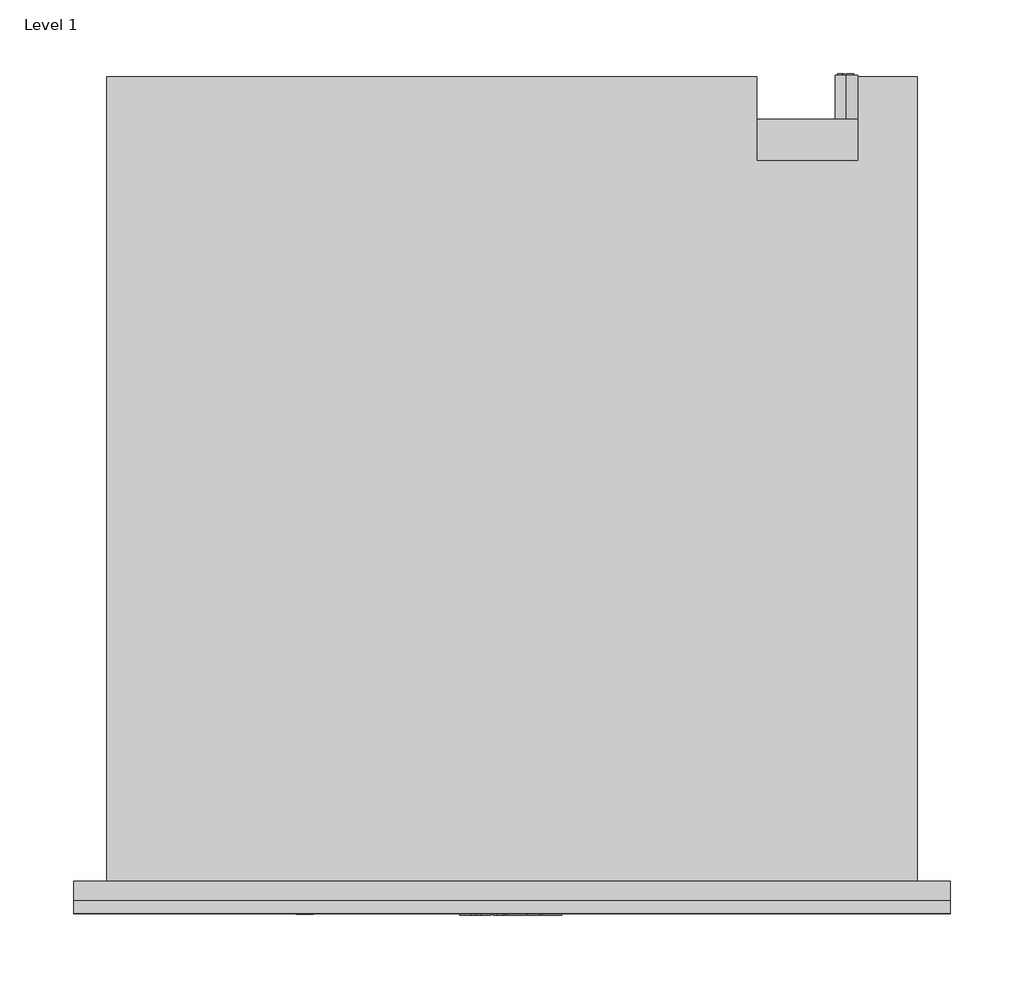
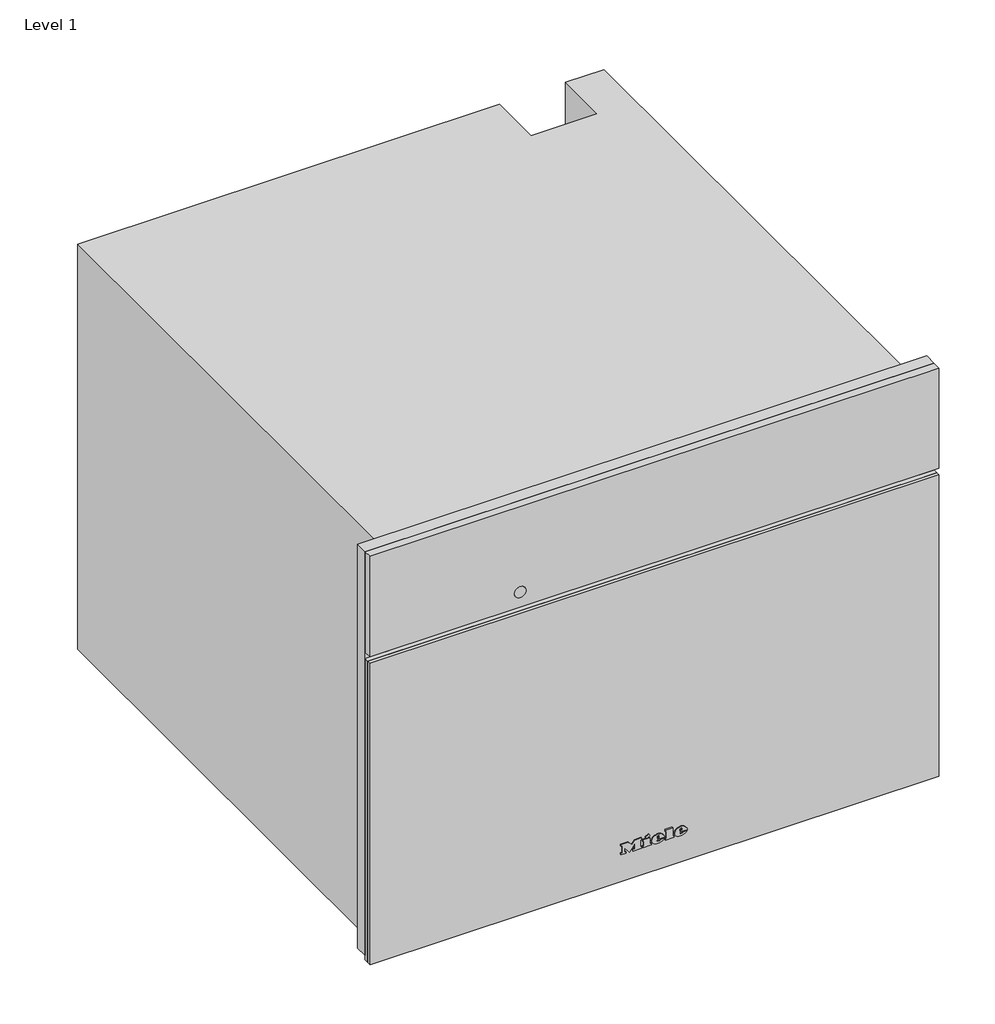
# One storey: 1 proxy.
"""IFC4 building model written with IfcOpenShell, lengths in millimetres."""

import ifcopenshell
import ifcopenshell.guid

model = None  # the IFC model being written
_history = None  # IfcOwnerHistory: only IFC2X3 demands one
_inside = {}  # id of a spatial element -> (the spatial element, [elements in it])
_under = {}  # id of a project, library or spatial element -> (it, [spatial elements below it])
_declared = {}  # id of a project -> (the project, [libraries it declares])
_typed = {}  # id of a type object -> (the type object, [elements of that type])
_made_of = {}  # id of a material, layer set ... -> (it, [elements and type objects made of it])


def new_model(schema):
    """Start an empty IFC model of exactly this schema.

    Asked for "IFC4X3", IfcOpenShell would pick the latest addendum, in which some entities
    have other attributes; the version numbers below select the first issue.
    IFC2X3 requires an IfcOwnerHistory on every rooted entity: one is made here for all.
    """
    global model, _history
    if schema == "IFC4X3":
        model = ifcopenshell.file(schema_version=(4, 3, 0, 0))
    else:
        model = ifcopenshell.file(schema=schema)
    _inside.clear()
    _under.clear()
    _declared.clear()
    _typed.clear()
    _made_of.clear()
    _history = None
    if model.schema == "IFC2X3":
        org = make("IfcOrganization", Name="unknown")
        user = make(
            "IfcPersonAndOrganization",
            ThePerson=make("IfcPerson", FamilyName="unknown"),
            TheOrganization=org,
        )
        app = make(
            "IfcApplication",
            ApplicationDeveloper=org,
            Version="unknown",
            ApplicationFullName="unknown",
            ApplicationIdentifier="unknown",
        )
        _history = make(
            "IfcOwnerHistory",
            OwningUser=user,
            OwningApplication=app,
            ChangeAction="ADDED",
            CreationDate=0,
        )
    return model


def make(cls, **values):
    """One entity of the class cls with the attributes given. An attribute that is None is left unset."""
    return model.create_entity(
        cls, **{name: value for name, value in values.items() if value is not None}
    )


def rooted(cls, **values):
    """An entity with a GlobalId (a new one), such as an element, a storey or a relation."""
    return make(cls, GlobalId=ifcopenshell.guid.new(), OwnerHistory=_history, **values)


def si_unit(unit_type, name, prefix=None):
    """IfcSIUnit, for example si_unit("LENGTHUNIT", "METRE", prefix="MILLI")."""
    return make("IfcSIUnit", UnitType=unit_type, Prefix=prefix, Name=name)


def assignment(units):
    """IfcUnitAssignment: the units of a project."""
    return None if units is None else make("IfcUnitAssignment", Units=units)


def point(xyz):
    """IfcCartesianPoint."""
    return None if xyz is None else make("IfcCartesianPoint", Coordinates=xyz)


def direction(xyz):
    """IfcDirection."""
    return None if xyz is None else make("IfcDirection", DirectionRatios=xyz)


def frame(location, z_axis=None, x_axis=None):
    """IfcAxis2Placement3D, a coordinate frame: its origin and axes. An axis left out is left unset."""
    return make(
        "IfcAxis2Placement3D",
        Location=point(location),
        Axis=direction(z_axis),
        RefDirection=direction(x_axis),
    )


def frame_2d(location, x_axis=None):
    """IfcAxis2Placement2D, a coordinate frame in the plane: its origin and x axis."""
    return make(
        "IfcAxis2Placement2D", Location=point(location), RefDirection=direction(x_axis)
    )


def origin():
    """The frame at (0, 0, 0) with its axes left unset."""
    return frame((0.0, 0.0, 0.0))


def place(relative_to, where):
    """IfcLocalPlacement: puts the frame where relative to a parent placement (None: the world)."""
    return make(
        "IfcLocalPlacement", PlacementRelTo=relative_to, RelativePlacement=where
    )


def context(
    kind, dimensions, precision=None, world=None, true_north=None, identifier=None
):
    """IfcGeometricRepresentationContext, for example the 3D "Model" context."""
    return make(
        "IfcGeometricRepresentationContext",
        ContextIdentifier=identifier,
        ContextType=kind,
        CoordinateSpaceDimension=dimensions,
        Precision=precision,
        WorldCoordinateSystem=world,
        TrueNorth=true_north,
    )


def project(units=None, contexts=None):
    """IfcProject with its units and contexts."""
    return rooted(
        "IfcProject",
        Name="project",
        RepresentationContexts=contexts,
        UnitsInContext=assignment(units),
    )


def spatial(cls, under=None, at=None, **own):
    """A site, building, storey or space (cls), placed at a placement, below another one or the project."""
    s = rooted(cls, ObjectPlacement=at, **own)
    if under is not None:
        _under.setdefault(under.id(), (under, []))[1].append(s)
    return s


def polyline(points):
    """IfcPolyline through the points."""
    return make("IfcPolyline", Points=[point(p) for p in points])


def circle_curve(where, radius):
    """IfcCircle in the frame where."""
    return make("IfcCircle", Position=where, Radius=radius)


def ellipse_curve(where, semi_axis1, semi_axis2):
    """IfcEllipse in the frame where."""
    return make(
        "IfcEllipse", Position=where, SemiAxis1=semi_axis1, SemiAxis2=semi_axis2
    )


def trimmed(basis, trim1, trim2, sense, master):
    """IfcTrimmedCurve: the piece of a basis curve between two trims."""
    return make(
        "IfcTrimmedCurve",
        BasisCurve=basis,
        Trim1=trim1,
        Trim2=trim2,
        SenseAgreement=sense,
        MasterRepresentation=master,
    )


def segment(curve, same_sense, transition):
    """IfcCompositeCurveSegment."""
    return make(
        "IfcCompositeCurveSegment",
        Transition=transition,
        SameSense=same_sense,
        ParentCurve=curve,
    )


def composite_curve(segments, self_intersect=None):
    """IfcCompositeCurve: segments joined end to end."""
    return make("IfcCompositeCurve", Segments=segments, SelfIntersect=self_intersect)


def outline(outer, holes=None, kind="AREA"):
    """IfcArbitraryClosedProfileDef: a profile drawn as a closed curve; with holes, ...WithVoids."""
    if holes is None:
        return make("IfcArbitraryClosedProfileDef", ProfileType=kind, OuterCurve=outer)
    return make(
        "IfcArbitraryProfileDefWithVoids",
        ProfileType=kind,
        OuterCurve=outer,
        InnerCurves=holes,
    )


def extrude(swept, where, along, depth):
    """IfcExtrudedAreaSolid: the profile swept, set in the frame where, extruded along a direction by depth."""
    return make(
        "IfcExtrudedAreaSolid",
        SweptArea=swept,
        Position=where,
        ExtrudedDirection=direction(along),
        Depth=depth,
    )


def faces_of(points, faces, orient=None, outer=None):
    """IfcFace entities. A face is a list of loops; a loop is a list of indices into points, from 0.

    orient and outer hold one flag for each loop. By default every Orientation is true, the
    first loop of a face is its IfcFaceOuterBound and the others are IfcFaceBound.
    """
    made = []
    for i, loops in enumerate(faces):
        bounds = []
        for j, loop in enumerate(loops):
            is_outer = j == 0 if outer is None else outer[i][j]
            bounds.append(
                make(
                    "IfcFaceOuterBound" if is_outer else "IfcFaceBound",
                    Bound=make("IfcPolyLoop", Polygon=[points[k] for k in loop]),
                    Orientation=True if orient is None else orient[i][j],
                )
            )
        made.append(make("IfcFace", Bounds=bounds))
    return made


def faceted_brep(points, faces, orient=None, outer=None, voids=None):
    """IfcFacetedBrep: a solid bounded by flat faces; with voids (closed shells), ...WithVoids."""
    shared = [point(p) for p in points]
    hull = make("IfcClosedShell", CfsFaces=faces_of(shared, faces, orient, outer))
    if voids is None:
        return make("IfcFacetedBrep", Outer=hull)
    return make(
        "IfcFacetedBrepWithVoids",
        Outer=hull,
        Voids=[
            make(cls, CfsFaces=faces_of(shared, fs, o, b)) for cls, fs, o, b in voids
        ],
    )


def shape(context_of_items, identifier, shape_type, items):
    """IfcShapeRepresentation: the items that make up one representation, for example the "Body"."""
    return make(
        "IfcShapeRepresentation",
        ContextOfItems=context_of_items,
        RepresentationIdentifier=identifier,
        RepresentationType=shape_type,
        Items=items,
    )


def source(mapping_origin, context_of_items, identifier, shape_type, items):
    """IfcRepresentationMap: a shape defined once, which mapped items show again and again."""
    return make(
        "IfcRepresentationMap",
        MappingOrigin=mapping_origin,
        MappedRepresentation=shape(context_of_items, identifier, shape_type, items),
    )


def transform(
    local_origin,
    x_axis=None,
    y_axis=None,
    z_axis=None,
    scale=None,
    scale2=None,
    scale3=None,
    uniform=True,
):
    """IfcCartesianTransformationOperator3D, or its non-uniform kind. x_axis, y_axis, z_axis: its Axis1, 2, 3."""
    if uniform:
        return make(
            "IfcCartesianTransformationOperator3D",
            Axis1=direction(x_axis),
            Axis2=direction(y_axis),
            LocalOrigin=point(local_origin),
            Scale=scale,
            Axis3=direction(z_axis),
        )
    return make(
        "IfcCartesianTransformationOperator3DnonUniform",
        Axis1=direction(x_axis),
        Axis2=direction(y_axis),
        LocalOrigin=point(local_origin),
        Scale=scale,
        Axis3=direction(z_axis),
        Scale2=scale2,
        Scale3=scale3,
    )


def mapped(mapping_source, mapping_target):
    """IfcMappedItem: shows the shape of a source again, moved by a transform."""
    return make(
        "IfcMappedItem", MappingSource=mapping_source, MappingTarget=mapping_target
    )


def made_of(thing, what):
    """Note that an element or type object is made of a material, layer set ...; save() writes the relation."""
    if what is not None:
        _made_of.setdefault(what.id(), (what, []))[1].append(thing)
    return thing


def element(
    cls,
    number,
    at=None,
    inside=None,
    cuts=None,
    type_object=None,
    material=None,
    context=None,
    identifier="Body",
    shape_type=None,
    held_by="IfcProductDefinitionShape",
    body=None,
    shapes=None,
    **own,
):
    """One element of the class cls, such as IfcWall. Its Tag is "e" and its number.

    at: its placement. inside: the storey or other place that contains it. cuts: it is an
    opening in that element (IfcRelVoidsElement). A single representation is given by context,
    identifier, shape_type and body (its items); several are given by shapes. held_by: the class
    of the entity that holds the representations. save() writes the other relations.
    """
    e = rooted(cls, Tag="e%d" % number, ObjectPlacement=at, **own)
    if body is not None:
        shapes = [shape(context, identifier, shape_type, body)]
    if shapes is not None:
        e.Representation = make(held_by, Representations=shapes)
    if inside is not None:
        _inside.setdefault(inside.id(), (inside, []))[1].append(e)
    if cuts is not None:
        rooted(
            "IfcRelVoidsElement", RelatingBuildingElement=cuts, RelatedOpeningElement=e
        )
    if type_object is not None:
        _typed.setdefault(type_object.id(), (type_object, []))[1].append(e)
    return made_of(e, material)


def aggregate(whole, parts):
    """IfcRelAggregates: a whole, such as a stair, and the parts it consists of."""
    return rooted("IfcRelAggregates", RelatingObject=whole, RelatedObjects=parts)


def save(model, path):
    """Write the relations noted so far, then the file.

    IfcRelAggregates (storeys below a building ...), IfcRelContainedInSpatialStructure (elements
    in a storey), IfcRelDefinesByType, IfcRelAssociatesMaterial and IfcRelDeclares: one each for
    every whole, place, type object, material and project.
    """
    for whole, parts in _under.values():
        aggregate(whole, parts)
    for where, things in _inside.values():
        rooted(
            "IfcRelContainedInSpatialStructure",
            RelatedElements=things,
            RelatingStructure=where,
        )
    for kind, things in _typed.values():
        rooted("IfcRelDefinesByType", RelatedObjects=things, RelatingType=kind)
    for what, things in _made_of.values():
        rooted("IfcRelAssociatesMaterial", RelatedObjects=things, RelatingMaterial=what)
    for by, libraries in _declared.values():
        rooted("IfcRelDeclares", RelatingContext=by, RelatedDefinitions=libraries)
    model.write(path)


def plane_surface(at):
    """IfcPlane: the flat surface through the origin of the frame at, square to its z axis."""
    return make("IfcPlane", Position=at)


def cylinder_surface(at, radius):
    """IfcCylindricalSurface: all points at the distance radius from the z axis of the frame at."""
    return make("IfcCylindricalSurface", Position=at, Radius=radius)


def revolved_surface(curve, axis_point, axis_direction):
    """IfcSurfaceOfRevolution: the curve turned about the line through axis_point along axis_direction."""
    return make(
        "IfcSurfaceOfRevolution",
        SweptCurve=make("IfcArbitraryOpenProfileDef", ProfileType="CURVE", Curve=curve),
        AxisPosition=make("IfcAxis1Placement", Location=point(axis_point), Axis=direction(axis_direction)),
    )


def extruded_surface(curve, direction_of_extrusion, depth):
    """IfcSurfaceOfLinearExtrusion: the curve pushed along a direction by depth."""
    return make(
        "IfcSurfaceOfLinearExtrusion",
        SweptCurve=make("IfcArbitraryOpenProfileDef", ProfileType="CURVE", Curve=curve),
        ExtrudedDirection=direction(direction_of_extrusion),
        Depth=depth,
    )


def advanced_brep(points, edges, surfaces, faces):
    """IfcAdvancedBrep: a solid bounded by faces that lie on surfaces and meet in shared edges.

    An edge is (start, end): straight between two places in points (the first is 0);
    or (start, end, curve); or (start, end, curve, False) where it runs against its curve.
    A face is (place in surfaces, loops), or (place, loops, False) where it looks against
    its surface's normal. A loop lists edges by number (the first is 1), with a minus sign
    where the edge is run from its end to its start. The first loop is the outer one.
    """
    corners = [point(p) for p in points]
    vertices = [make("IfcVertexPoint", VertexGeometry=c) for c in corners]
    made = []
    for start, end, *more in edges:
        made.append(
            make(
                "IfcEdgeCurve",
                EdgeStart=vertices[start],
                EdgeEnd=vertices[end],
                EdgeGeometry=more[0] if more else make("IfcPolyline", Points=[corners[start], corners[end]]),
                SameSense=more[1] if len(more) > 1 else True,
            )
        )
    hull = []
    for where, loops, *sense in faces:
        bounds = []
        for j, loop in enumerate(loops):
            ring = [make("IfcOrientedEdge", EdgeElement=made[abs(k) - 1], Orientation=k > 0) for k in loop]
            bounds.append(
                make(
                    "IfcFaceOuterBound" if j == 0 else "IfcFaceBound",
                    Bound=make("IfcEdgeLoop", EdgeList=ring),
                    Orientation=True,
                )
            )
        hull.append(make("IfcAdvancedFace", Bounds=bounds, FaceSurface=surfaces[where], SameSense=sense[0] if sense else True))
    return make("IfcAdvancedBrep", Outer=make("IfcClosedShell", CfsFaces=hull))


def specialty_equipment_7f041e0e(model_context):
    return source(origin(), model_context, "Body", "SolidModel", [
        extrude(outline(polyline([(455.0, 297.5), (455.0, -297.5), (9.0, -297.5), (9.0, 297.5), (455.0, 297.5)]), holes=[polyline([(344.0, -272.5), (344.0, 272.5), (27.0, 272.5), (27.0, -272.5), (344.0, -272.5)])]), frame((0.0, -13.0, 0.0), z_axis=(0.0, 1.0, 0.0), x_axis=(0.0, 0.0, 1.0)), (0.0, 0.0, 1.0), 13.0),
        advanced_brep(
        [(227.0, 547.0, 255.5), (227.0, 547.0, 240.5), (221.4098301, 547.0, 243.0), (225.5, 547.0, 243.0), (225.5, 547.0, 253.0), (224.4955303, 547.0, 253.0), (224.4955303, 547.0, 244.0), (221.0315043, 547.0, 244.0), (221.0315043, 547.0, 243.4582978), (232.0, 547.0, 243.0), (232.0, 547.0, 253.0), (227.0, 547.0, 253.0), (227.0, 547.0, 252.0), (231.0, 547.0, 252.0), (231.0, 547.0, 248.5), (228.0, 547.0, 248.5), (228.0, 547.0, 247.5), (231.0, 547.0, 247.5), (231.0, 547.0, 244.0), (227.0, 547.0, 244.0), (227.0, 547.0, 243.0), (227.0, 517.0, 240.5), (227.0, 517.0, 255.5), (232.0, 548.0, 253.0), (232.0, 548.0, 243.0), (227.0, 548.0, 243.0), (227.0, 548.0, 244.0), (231.0, 548.0, 244.0), (231.0, 548.0, 247.5), (228.0, 548.0, 247.5), (228.0, 548.0, 248.5), (231.0, 548.0, 248.5), (231.0, 548.0, 252.0), (227.0, 548.0, 252.0), (227.0, 548.0, 253.0), (225.5, 548.0, 243.0), (221.0315043, 548.0, 243.0), (221.0315043, 548.0, 244.0), (224.4955303, 548.0, 244.0), (224.4955303, 548.0, 253.0), (225.5, 548.0, 253.0), (221.0315043, 547.0, 243.0)],
        [
            (0, 1, circle_curve(frame((227.0, 547.0, 248.0), z_axis=(0.0, 1.0, 0.0), x_axis=(0.0, 0.0, 1.0)), 7.5)),
            (1, 2, circle_curve(frame((227.0, 547.0, 248.0), z_axis=(0.0, 1.0, 0.0), x_axis=(0.0, 0.0, 1.0)), 7.5)),
            (2, 3),
            (3, 4),
            (4, 5),
            (5, 6),
            (6, 7),
            (7, 8),
            (8, 0, circle_curve(frame((227.0, 547.0, 248.0), z_axis=(0.0, 1.0, 0.0), x_axis=(0.0, 0.0, 1.0)), 7.5)),
            (9, 10),
            (10, 11),
            (11, 12),
            (12, 13),
            (13, 14),
            (14, 15),
            (15, 16),
            (16, 17),
            (17, 18),
            (18, 19),
            (19, 20),
            (20, 9),
            (21, 22, circle_curve(frame((227.0, 517.0, 248.0), z_axis=(0.0, -1.0, 0.0), x_axis=(0.0, 0.0, 1.0)), 7.5)),
            (22, 21, circle_curve(frame((227.0, 517.0, 248.0), z_axis=(0.0, -1.0, 0.0), x_axis=(0.0, 0.0, 1.0)), 7.5)),
            (0, 22),
            (21, 1),
            (8, 2, circle_curve(frame((227.0, 547.0, 248.0), z_axis=(0.0, -1.0, 0.0), x_axis=(0.0, 0.0, 1.0)), 7.5)),
            (23, 24),
            (24, 25),
            (25, 26),
            (26, 27),
            (27, 28),
            (28, 29),
            (29, 30),
            (30, 31),
            (31, 32),
            (32, 33),
            (33, 34),
            (34, 23),
            (35, 36),
            (36, 37),
            (37, 38),
            (38, 39),
            (39, 40),
            (40, 35),
            (8, 41),
            (41, 2),
            (23, 10),
            (9, 24),
            (20, 25),
            (19, 26),
            (18, 27),
            (17, 28),
            (16, 29),
            (15, 30),
            (14, 31),
            (13, 32),
            (12, 33),
            (11, 34),
            (35, 3),
            (41, 36),
            (7, 37),
            (6, 38),
            (5, 39),
            (4, 40),
        ],
        [
            plane_surface(frame((227.0, 547.0, 255.5), z_axis=(0.0, 1.0, 0.0), x_axis=(1.0, 0.0, 0.0))),
            plane_surface(frame((227.0, 517.0, 255.5), z_axis=(0.0, -1.0, 0.0), x_axis=(-1.0, 0.0, 0.0))),
            cylinder_surface(frame((227.0, 547.0, 248.0), z_axis=(0.0, -1.0, 0.0), x_axis=(0.0, 0.0, 1.0)), 7.5),
            plane_surface(frame((232.0, 548.0, 253.0), z_axis=(0.0, 1.0, 0.0), x_axis=(0.0, 0.0, -1.0))),
            plane_surface(frame((232.0, 547.0, 253.0), z_axis=(0.0, -1.0, 0.0), x_axis=(0.0, 0.0, 1.0))),
            plane_surface(frame((232.0, 548.0, 253.0), z_axis=(1.0, 0.0, 0.0), x_axis=(0.0, -1.0, 0.0))),
            plane_surface(frame((232.0, 548.0, 243.0), z_axis=(0.0, 0.0, -1.0), x_axis=(0.0, -1.0, 0.0))),
            plane_surface(frame((227.0, 548.0, 243.0), z_axis=(-1.0, 0.0, 0.0), x_axis=(0.0, -1.0, 0.0))),
            plane_surface(frame((227.0, 548.0, 244.0), z_axis=(0.0, 0.0, 1.0), x_axis=(0.0, -1.0, 0.0))),
            plane_surface(frame((231.0, 548.0, 244.0), z_axis=(-1.0, 0.0, 0.0), x_axis=(0.0, -1.0, 0.0))),
            plane_surface(frame((231.0, 548.0, 247.5), z_axis=(0.0, 0.0, -1.0), x_axis=(0.0, -1.0, 0.0))),
            plane_surface(frame((228.0, 548.0, 247.5), z_axis=(-1.0, 0.0, 0.0), x_axis=(0.0, -1.0, 0.0))),
            plane_surface(frame((228.0, 548.0, 248.5), z_axis=(0.0, 0.0, 1.0), x_axis=(0.0, -1.0, 0.0))),
            plane_surface(frame((231.0, 548.0, 248.5), z_axis=(-1.0, 0.0, 0.0), x_axis=(0.0, -1.0, 0.0))),
            plane_surface(frame((231.0, 548.0, 252.0), z_axis=(0.0, 0.0, -1.0), x_axis=(0.0, -1.0, 0.0))),
            plane_surface(frame((227.0, 548.0, 252.0), z_axis=(-1.0, 0.0, 0.0), x_axis=(0.0, -1.0, 0.0))),
            plane_surface(frame((227.0, 548.0, 253.0), z_axis=(0.0, 0.0, 1.0), x_axis=(0.0, -1.0, 0.0))),
            plane_surface(frame((225.5, 548.0, 243.0), z_axis=(0.0, 0.0, -1.0), x_axis=(0.0, -1.0, 0.0))),
            plane_surface(frame((221.0315043, 548.0, 243.0), z_axis=(-1.0, 0.0, 0.0), x_axis=(0.0, -1.0, 0.0))),
            plane_surface(frame((221.0315043, 548.0, 244.0), z_axis=(0.0, 0.0, 1.0), x_axis=(0.0, -1.0, 0.0))),
            plane_surface(frame((224.4955303, 548.0, 244.0), z_axis=(-1.0, 0.0, 0.0), x_axis=(0.0, -1.0, 0.0))),
            plane_surface(frame((224.4955303, 548.0, 253.0), z_axis=(0.0, 0.0, 1.0), x_axis=(0.0, -1.0, 0.0))),
            plane_surface(frame((225.5, 548.0, 253.0), z_axis=(1.0, 0.0, 0.0), x_axis=(0.0, -1.0, 0.0))),
        ],
        [
            (0, [[1, 2, 3, 4, 5, 6, 7, 8, 9], [10, 11, 12, 13, 14, 15, 16, 17, 18, 19, 20, 21]]),
            (1, [[22, 23]]),
            (2, [[-1, 24, -22, 25]]),
            (2, [[-23, -24, -9, 26, -2, -25]]),
            (3, [[27, 28, 29, 30, 31, 32, 33, 34, 35, 36, 37, 38]]),
            (3, [[39, 40, 41, 42, 43, 44]]),
            (4, [[45, 46, -26]]),
            (5, [[-27, 47, -10, 48]]),
            (6, [[-28, -48, -21, 49]]),
            (7, [[-29, -49, -20, 50]]),
            (8, [[-30, -50, -19, 51]]),
            (9, [[-31, -51, -18, 52]]),
            (10, [[-32, -52, -17, 53]]),
            (11, [[-33, -53, -16, 54]]),
            (12, [[-34, -54, -15, 55]]),
            (13, [[-35, -55, -14, 56]]),
            (14, [[-36, -56, -13, 57]]),
            (15, [[-37, -57, -12, 58]]),
            (16, [[-38, -58, -11, -47]]),
            (17, [[-39, 59, -3, -46, 60]]),
            (18, [[-40, -60, -45, -8, 61]]),
            (19, [[-41, -61, -7, 62]]),
            (20, [[-42, -62, -6, 63]]),
            (21, [[-43, -63, -5, 64]]),
            (22, [[-44, -64, -4, -59]]),
        ],
    ),
        faceted_brep([(-275.0, 546.0, 0.0), (-275.0, 546.0, 448.0), (166.0, 546.0, 448.0), (166.0, 546.0, 0.0), (235.0, 546.0, 448.0), (275.0, 546.0, 448.0), (275.0, 546.0, 338.0), (235.0, 546.0, 338.0), (275.0, 0.0, 448.0), (-275.0, 0.0, 448.0), (-275.0, 0.0, 0.0), (275.0, 0.0, 0.0), (-272.5, 0.0, 344.0), (272.5, 0.0, 344.0), (272.5, 0.0, 27.0), (-272.5, 0.0, 27.0), (235.0, 489.0, 448.0), (166.0, 489.0, 448.0), (166.0, 517.0, 0.0), (275.0, 517.0, 0.0), (275.0, 517.0, 338.0), (272.5, 17.0, 344.0), (-272.5, 17.0, 344.0), (-272.5, 17.0, 27.0), (272.5, 17.0, 27.0), (231.0, 17.0, 307.0), (231.0, 17.0, 65.0), (-231.0, 17.0, 65.0), (-231.0, 17.0, 307.0), (231.0, 411.0, 307.0), (-231.0, 411.0, 307.0), (-231.0, 411.0, 65.0), (231.0, 411.0, 65.0), (235.0, 489.0, 337.0), (166.0, 489.0, 337.0), (166.0, 517.0, 337.0), (235.0, 517.0, 337.0), (235.0, 517.0, 338.0)], [[[0, 1, 2, 3]], [[4, 5, 6, 7]], [[8, 9, 10, 11], [12, 13, 14, 15]], [[9, 8, 5, 4, 16, 17, 2, 1]], [[1, 0, 10, 9]], [[11, 10, 0, 3, 18, 19]], [[8, 11, 19, 20, 6, 5]], [[21, 22, 23, 24], [25, 26, 27, 28]], [[22, 21, 13, 12]], [[23, 22, 12, 15]], [[24, 23, 15, 14]], [[21, 24, 14, 13]], [[29, 30, 31, 32]], [[29, 32, 26, 25]], [[32, 31, 27, 26]], [[31, 30, 28, 27]], [[30, 29, 25, 28]], [[16, 33, 34, 17]], [[17, 34, 35, 18, 3, 2]], [[34, 33, 36, 35]], [[33, 16, 4, 7, 37, 36]], [[37, 20, 19, 18, 35, 36]], [[20, 37, 7, 6]]]),
        advanced_brep(
        [(26.2998, -23.0, 36.7018), (26.2998, -23.0, 37.8532), (33.9264, -23.0, 37.8532), (20.6568, -23.0, 37.8532), (23.7918, -23.0, 34.0), (33.7326, -23.0, 36.7018), (30.2898, -23.0, 36.7018), (27.5766, -23.0, 35.425), (26.2998, -23.0, 39.3124), (26.2998, -23.0, 40.555), (28.2492, -23.0, 40.555), (28.2492, -23.0, 39.3124), (26.2998, -22.0, 36.7018), (27.5766, -22.0, 35.425), (30.2898, -22.0, 36.7018), (33.7326, -22.0, 36.7018), (23.7918, -22.0, 34.0), (20.6568, -22.0, 37.8532), (33.9264, -22.0, 37.8532), (26.2998, -22.0, 37.8532), (26.2998, -22.0, 39.3124), (28.2492, -22.0, 39.3124), (28.2492, -22.0, 40.555), (26.2998, -22.0, 40.555)],
        [
            (0, 1),
            (1, 2),
            (2, 3, ellipse_curve(frame((27.2916, -23.0, 37.8532), z_axis=(0.0, -1.0, 0.0), x_axis=(-1.0, 0.0, 0.0)), 6.6348, 5.4834)),
            (3, 4, circle_curve(frame((25.0686622, -23.0, 38.2408), z_axis=(0.0, -1.0, 0.0), x_axis=(0.0, 0.0, -1.0)), 4.4288556)),
            (4, 5, circle_curve(frame((27.1587808, -23.0, 41.2504), z_axis=(0.0, -1.0, 0.0), x_axis=(0.0, 0.0, -1.0)), 7.9940516)),
            (5, 6),
            (6, 7, circle_curve(frame((28.1338588, -23.0, 37.762), z_axis=(0.0, 1.0, 0.0), x_axis=(0.0, 0.0, -1.0)), 2.4025208)),
            (7, 0, circle_curve(frame((27.5766, -23.0, 36.7018), z_axis=(0.0, 1.0, 0.0), x_axis=(0.0, 0.0, -1.0)), 1.2768)),
            (8, 9),
            (9, 10, circle_curve(frame((27.2745, -23.0, 40.555), z_axis=(0.0, 1.0, 0.0), x_axis=(0.0, 0.0, -1.0)), 0.9747)),
            (10, 11),
            (11, 8),
            (12, 13, circle_curve(frame((27.5766, -22.0, 36.7018), z_axis=(0.0, -1.0, 0.0), x_axis=(0.0, 0.0, -1.0)), 1.2768)),
            (13, 14, circle_curve(frame((28.1338588, -22.0, 37.762), z_axis=(0.0, -1.0, 0.0), x_axis=(0.0, 0.0, -1.0)), 2.4025208)),
            (14, 15),
            (15, 16, circle_curve(frame((27.1587808, -22.0, 41.2504), z_axis=(0.0, 1.0, 0.0), x_axis=(0.0, 0.0, -1.0)), 7.9940516)),
            (16, 17, circle_curve(frame((25.0686622, -22.0, 38.2408), z_axis=(0.0, 1.0, 0.0), x_axis=(0.0, 0.0, -1.0)), 4.4288556)),
            (17, 18, ellipse_curve(frame((27.2916, -22.0, 37.8532), z_axis=(0.0, 1.0, 0.0), x_axis=(-1.0, 0.0, 0.0)), 6.6348, 5.4834)),
            (18, 19),
            (19, 12),
            (20, 21),
            (21, 22),
            (22, 23, circle_curve(frame((27.2745, -22.0, 40.555), z_axis=(0.0, -1.0, 0.0), x_axis=(0.0, 0.0, -1.0)), 0.9747)),
            (23, 20),
            (0, 12),
            (19, 1),
            (18, 2),
            (5, 15),
            (14, 6),
            (17, 3),
            (13, 7),
            (16, 4),
            (8, 20),
            (23, 9),
            (22, 10),
            (21, 11),
        ],
        [
            plane_surface(frame((26.2998, -23.0, 37.8532), z_axis=(0.0, -1.0, 0.0), x_axis=(0.0, 0.0, 1.0))),
            plane_surface(frame((26.2998, -22.0, 37.8532), z_axis=(0.0, 1.0, 0.0), x_axis=(0.0, 0.0, -1.0))),
            plane_surface(frame((26.2998, -23.0, 36.7018), z_axis=(1.0, 0.0, 0.0), x_axis=(0.0, 1.0, 0.0))),
            plane_surface(frame((26.2998, -23.0, 37.8532), z_axis=(0.0, 0.0, -1.0), x_axis=(0.0, 1.0, 0.0))),
            plane_surface(frame((33.7326, -23.0, 36.7018), z_axis=(0.0, 0.0, 1.0), x_axis=(0.0, 1.0, 0.0))),
            extruded_surface(trimmed(ellipse_curve(frame((27.2916, -21.0, 37.8532), z_axis=(0.0, -1.0, 0.0), x_axis=(-1.0, 0.0, 0.0)), 6.6348, 5.4834), [point((33.9264, -21.0, 37.8532))], [point((20.6568, -21.0, 37.8532))], True, "CARTESIAN"), (0.0, -1.0, 0.0), 1.0),
            revolved_surface(polyline([(28.1338588, -22.0, 35.3594792), (28.1338588, -23.0, 35.3594792)]), (28.1338588, -22.0, 37.762), (0.0, 1.0, 0.0)),
            revolved_surface(polyline([(27.5766, -22.0, 35.425), (27.5766, -23.0, 35.425)]), (27.5766, -22.0, 36.7018), (0.0, 1.0, 0.0)),
            cylinder_surface(frame((25.0686622, -22.0, 38.2408), z_axis=(0.0, -1.0, 0.0), x_axis=(0.0, 0.0, -1.0)), 4.4288556),
            cylinder_surface(frame((27.1587808, -22.0, 41.2504), z_axis=(0.0, -1.0, 0.0), x_axis=(0.0, 0.0, -1.0)), 7.9940516),
            plane_surface(frame((26.2998, -23.0, 39.3124), z_axis=(1.0, 0.0, 0.0), x_axis=(0.0, 1.0, 0.0))),
            revolved_surface(polyline([(27.2745, -22.0, 39.5803), (27.2745, -23.0, 39.5803)]), (27.2745, -22.0, 40.555), (0.0, 1.0, 0.0)),
            plane_surface(frame((28.2492, -23.0, 40.555), z_axis=(-1.0, 0.0, 0.0), x_axis=(0.0, 1.0, 0.0))),
            plane_surface(frame((28.2492, -23.0, 39.3124), z_axis=(0.0, 0.0, 1.0), x_axis=(0.0, 1.0, 0.0))),
        ],
        [
            (0, [[1, 2, 3, 4, 5, 6, 7, 8], [9, 10, 11, 12]]),
            (1, [[13, 14, 15, 16, 17, 18, 19, 20], [21, 22, 23, 24]]),
            (2, [[-1, 25, -20, 26]]),
            (3, [[-2, -26, -19, 27]]),
            (4, [[-6, 28, -15, 29]]),
            (5, [[-3, -27, -18, 30]]),
            (6, [[-7, -29, -14, 31]]),
            (7, [[-8, -31, -13, -25]]),
            (8, [[-4, -30, -17, 32]]),
            (9, [[-5, -32, -16, -28]]),
            (10, [[-9, 33, -24, 34]]),
            (11, [[-10, -34, -23, 35]]),
            (12, [[-11, -35, -22, 36]]),
            (13, [[-12, -36, -21, -33]]),
        ],
    ),
        advanced_brep(
        [(2.508, -23.0, 36.7018), (2.508, -23.0, 37.8532), (10.1346, -23.0, 37.8532), (-3.135, -23.0, 37.8532), (0.0, -23.0, 34.0), (9.9408, -23.0, 36.7018), (6.498, -23.0, 36.7018), (3.7848, -23.0, 35.425), (2.508, -23.0, 39.3124), (2.508, -23.0, 40.555), (4.4574, -23.0, 40.555), (4.4574, -23.0, 39.3124), (2.508, -22.0, 36.7018), (3.7848, -22.0, 35.425), (6.498, -22.0, 36.7018), (9.9408, -22.0, 36.7018), (0.0, -22.0, 34.0), (-3.135, -22.0, 37.8532), (10.1346, -22.0, 37.8532), (2.508, -22.0, 37.8532), (2.508, -22.0, 39.3124), (4.4574, -22.0, 39.3124), (4.4574, -22.0, 40.555), (2.508, -22.0, 40.555)],
        [
            (0, 1),
            (1, 2),
            (2, 3, ellipse_curve(frame((3.4998, -23.0, 37.8532), z_axis=(0.0, -1.0, 0.0), x_axis=(-1.0, 0.0, 0.0)), 6.6348, 5.4834)),
            (3, 4, circle_curve(frame((1.2768622, -23.0, 38.2408), z_axis=(0.0, -1.0, 0.0), x_axis=(0.0, 0.0, -1.0)), 4.4288556)),
            (4, 5, circle_curve(frame((3.3669808, -23.0, 41.2504), z_axis=(0.0, -1.0, 0.0), x_axis=(0.0, 0.0, -1.0)), 7.9940516)),
            (5, 6),
            (6, 7, circle_curve(frame((4.3420588, -23.0, 37.762), z_axis=(0.0, 1.0, 0.0), x_axis=(0.0, 0.0, -1.0)), 2.4025208)),
            (7, 0, circle_curve(frame((3.7848, -23.0, 36.7018), z_axis=(0.0, 1.0, 0.0), x_axis=(0.0, 0.0, -1.0)), 1.2768)),
            (8, 9),
            (9, 10, circle_curve(frame((3.4827, -23.0, 40.555), z_axis=(0.0, 1.0, 0.0), x_axis=(0.0, 0.0, -1.0)), 0.9747)),
            (10, 11),
            (11, 8),
            (12, 13, circle_curve(frame((3.7848, -22.0, 36.7018), z_axis=(0.0, -1.0, 0.0), x_axis=(0.0, 0.0, -1.0)), 1.2768)),
            (13, 14, circle_curve(frame((4.3420588, -22.0, 37.762), z_axis=(0.0, -1.0, 0.0), x_axis=(0.0, 0.0, -1.0)), 2.4025208)),
            (14, 15),
            (15, 16, circle_curve(frame((3.3669808, -22.0, 41.2504), z_axis=(0.0, 1.0, 0.0), x_axis=(0.0, 0.0, -1.0)), 7.9940516)),
            (16, 17, circle_curve(frame((1.2768622, -22.0, 38.2408), z_axis=(0.0, 1.0, 0.0), x_axis=(0.0, 0.0, -1.0)), 4.4288556)),
            (17, 18, ellipse_curve(frame((3.4998, -22.0, 37.8532), z_axis=(0.0, 1.0, 0.0), x_axis=(-1.0, 0.0, 0.0)), 6.6348, 5.4834)),
            (18, 19),
            (19, 12),
            (20, 21),
            (21, 22),
            (22, 23, circle_curve(frame((3.4827, -22.0, 40.555), z_axis=(0.0, -1.0, 0.0), x_axis=(0.0, 0.0, -1.0)), 0.9747)),
            (23, 20),
            (0, 12),
            (19, 1),
            (18, 2),
            (5, 15),
            (14, 6),
            (17, 3),
            (13, 7),
            (16, 4),
            (8, 20),
            (23, 9),
            (22, 10),
            (21, 11),
        ],
        [
            plane_surface(frame((2.508, -23.0, 37.8532), z_axis=(0.0, -1.0, 0.0), x_axis=(0.0, 0.0, 1.0))),
            plane_surface(frame((2.508, -22.0, 37.8532), z_axis=(0.0, 1.0, 0.0), x_axis=(0.0, 0.0, -1.0))),
            plane_surface(frame((2.508, -23.0, 36.7018), z_axis=(1.0, 0.0, 0.0), x_axis=(0.0, 1.0, 0.0))),
            plane_surface(frame((2.508, -23.0, 37.8532), z_axis=(0.0, 0.0, -1.0), x_axis=(0.0, 1.0, 0.0))),
            plane_surface(frame((9.9408, -23.0, 36.7018), z_axis=(0.0, 0.0, 1.0), x_axis=(0.0, 1.0, 0.0))),
            extruded_surface(trimmed(ellipse_curve(frame((3.4998, -21.0, 37.8532), z_axis=(0.0, -1.0, 0.0), x_axis=(-1.0, 0.0, 0.0)), 6.6348, 5.4834), [point((10.1346, -21.0, 37.8532))], [point((-3.135, -21.0, 37.8532))], True, "CARTESIAN"), (0.0, -1.0, 0.0), 1.0),
            revolved_surface(polyline([(4.3420588, -22.0, 35.3594792), (4.3420588, -23.0, 35.3594792)]), (4.3420588, -22.0, 37.762), (0.0, 1.0, 0.0)),
            revolved_surface(polyline([(3.7848, -22.0, 35.425), (3.7848, -23.0, 35.425)]), (3.7848, -22.0, 36.7018), (0.0, 1.0, 0.0)),
            cylinder_surface(frame((1.2768622, -22.0, 38.2408), z_axis=(0.0, -1.0, 0.0), x_axis=(0.0, 0.0, -1.0)), 4.4288556),
            cylinder_surface(frame((3.3669808, -22.0, 41.2504), z_axis=(0.0, -1.0, 0.0), x_axis=(0.0, 0.0, -1.0)), 7.9940516),
            plane_surface(frame((2.508, -23.0, 39.3124), z_axis=(1.0, 0.0, 0.0), x_axis=(0.0, 1.0, 0.0))),
            revolved_surface(polyline([(3.4827, -22.0, 39.5803), (3.4827, -23.0, 39.5803)]), (3.4827, -22.0, 40.555), (0.0, 1.0, 0.0)),
            plane_surface(frame((4.4574, -23.0, 40.555), z_axis=(-1.0, 0.0, 0.0), x_axis=(0.0, 1.0, 0.0))),
            plane_surface(frame((4.4574, -23.0, 39.3124), z_axis=(0.0, 0.0, 1.0), x_axis=(0.0, 1.0, 0.0))),
        ],
        [
            (0, [[1, 2, 3, 4, 5, 6, 7, 8], [9, 10, 11, 12]]),
            (1, [[13, 14, 15, 16, 17, 18, 19, 20], [21, 22, 23, 24]]),
            (2, [[-1, 25, -20, 26]]),
            (3, [[-2, -26, -19, 27]]),
            (4, [[-6, 28, -15, 29]]),
            (5, [[-3, -27, -18, 30]]),
            (6, [[-7, -29, -14, 31]]),
            (7, [[-8, -31, -13, -25]]),
            (8, [[-4, -30, -17, 32]]),
            (9, [[-5, -32, -16, -28]]),
            (10, [[-9, 33, -24, 34]]),
            (11, [[-10, -34, -23, 35]]),
            (12, [[-11, -35, -22, 36]]),
            (13, [[-12, -36, -21, -33]]),
        ],
    ),
        extrude(outline(polyline([(44.7274, -9.9522), (42.8806, -9.0858), (44.6818, -5.2212), (46.5286, -6.0762), (44.7274, -9.9522)])), frame((0.0, -23.0, 0.0), z_axis=(0.0, 1.0, 0.0), x_axis=(0.0, 0.0, 1.0)), (0.0, 0.0, 1.0), 1.0),
        extrude(outline(polyline([(42.6298, -12.768), (40.5892, -12.768), (40.5892, -11.4114), (35.9152, -11.4114), (35.9152, -12.768), (34.0, -12.768), (34.0, -3.7734), (35.9152, -3.7734), (35.9152, -5.0958), (42.6298, -5.0958), (42.6298, -12.768)])), frame((0.0, -23.0, 0.0), z_axis=(0.0, 1.0, 0.0), x_axis=(0.0, 0.0, 1.0)), (0.0, 0.0, 1.0), 1.0),
        extrude(outline(polyline([(43.5418, 10.773), (43.5418, 12.141), (35.9152, 12.141), (35.9152, 10.773), (34.0, 10.773), (34.0, 20.0184), (35.9152, 20.0184), (35.9152, 18.6162), (45.4, 18.6162), (45.4, 10.773), (43.5418, 10.773)])), frame((0.0, -23.0, 0.0), z_axis=(0.0, 1.0, 0.0), x_axis=(0.0, 0.0, 1.0)), (0.0, 0.0, 1.0), 1.0),
        extrude(outline(polyline([(43.5418, -35.4882), (43.5418, -34.1088), (35.9152, -34.1088), (35.9152, -35.4882), (34.0, -35.4882), (34.0, -30.4722), (35.9152, -30.4722), (35.9152, -31.8402), (40.7429247, -31.8402), (34.0, -26.7444), (40.9402223, -21.6258), (35.9152, -21.6258), (35.9152, -23.028), (34.0, -23.028), (34.0, -13.9308), (35.9152, -13.9308), (35.9152, -15.3786), (43.5418, -15.3786), (43.5418, -13.9308), (45.4, -13.9308), (45.4, -20.8734), (41.125, -24.2022), (45.4, -27.5424), (45.4, -35.4882), (43.5418, -35.4882)])), frame((0.0, -23.0, 0.0), z_axis=(0.0, 1.0, 0.0), x_axis=(0.0, 0.0, 1.0)), (0.0, 0.0, 1.0), 1.0),
        extrude(outline(polyline([(297.5, -22.0), (-297.5, -22.0), (-297.5, -13.0), (297.5, -13.0), (297.5, -22.0)])), frame((0.0, 0.0, 344.0), z_axis=(0.0, 0.0, 1.0), x_axis=(1.0, 0.0, 0.0)), (0.0, 0.0, 1.0), 111.0),
        extrude(outline(composite_curve([segment(trimmed(circle_curve(frame_2d((361.0, -140.5745637)), 6.0), [point((361.0, -146.5745637))], [point((361.0, -134.5745637))], False, "CARTESIAN"), True, "CONTINUOUS"), segment(trimmed(circle_curve(frame_2d((361.0, -140.5745637)), 6.0), [point((361.0, -134.5745637))], [point((361.0, -146.5745637))], False, "CARTESIAN"), True, "CONTINUOUS")], self_intersect=False)), frame((0.0, -22.5, 0.0), z_axis=(0.0, 1.0, 0.0), x_axis=(0.0, 0.0, 1.0)), (0.0, 0.0, 1.0), 1.0),
        extrude(outline(polyline([(297.5, -18.0), (-297.5, -18.0), (-297.5, -13.0), (297.5, -13.0), (297.5, -18.0)])), frame((0.0, 0.0, 4.0), z_axis=(0.0, 0.0, 1.0), x_axis=(1.0, 0.0, 0.0)), (0.0, 0.0, 1.0), 333.0),
        extrude(outline(polyline([(-297.5, -18.0), (297.5, -18.0), (297.5, -22.0), (-297.5, -22.0), (-297.5, -18.0)])), frame((0.0, 0.0, 4.0), z_axis=(0.0, 0.0, 1.0), x_axis=(1.0, 0.0, 0.0)), (0.0, 0.0, 1.0), 333.0),
    ])


model = new_model("IFC4")

# Units and contexts
model_context = context("Model", 3, world=origin())
ifc_project = project(units=[si_unit("LENGTHUNIT", "METRE", prefix="MILLI")], contexts=[model_context])

# Site, building, storey
site = spatial("IfcSite", under=ifc_project)
building = spatial("IfcBuilding", under=site)
storey = spatial("IfcBuildingStorey", under=building, Name="Level 1", Elevation=0.0)

# Proxy
placement = place(None, origin())
specialty_equipment_shape = specialty_equipment_7f041e0e(model_context)
element("IfcBuildingElementProxy", 1, Name="11107120_D_DGC7840X_GRGR : 23784072_D_11107120_DGC7840X_GRGR", ObjectType="11107120_D_DGC7840X_GRGR : 23784072_D_11107120_DGC7840X_GRGR", at=placement, inside=storey, context=model_context, shape_type="MappedRepresentation", body=[
    mapped(specialty_equipment_shape, transform((0.0, 0.0, 0.0), x_axis=(1.0, 0.0, 0.0), y_axis=(0.0, 1.0, 0.0), z_axis=(0.0, 0.0, 1.0))),
])

save(model, "model.ifc")
